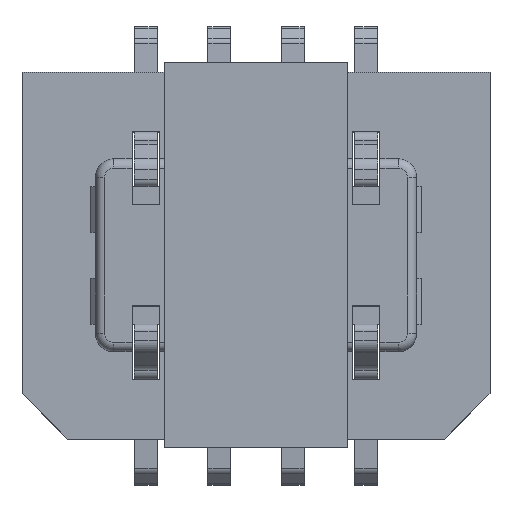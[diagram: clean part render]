
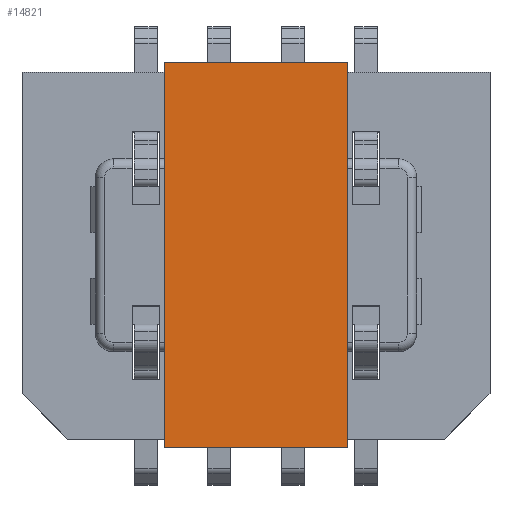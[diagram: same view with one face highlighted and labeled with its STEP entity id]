
A CAD part, top view. The second image highlights one B-rep face of the part: STEP entity #14821.
In plain terms, the highlighted planar face has unit normal (0, 0, 1).
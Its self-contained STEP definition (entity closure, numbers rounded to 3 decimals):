
#14769=CARTESIAN_POINT('Vertex',(-1.,2.1,4.95)) ;
#14772=CARTESIAN_POINT('Line Origine',(0.,2.1,4.95)) ;
#14776=CARTESIAN_POINT('Vertex',(1.,2.1,4.95)) ;
#14791=CARTESIAN_POINT('Axis2P3D Location',(0.,-2.1,4.95)) ;
#14796=CARTESIAN_POINT('Line Origine',(-1.,0.,4.95)) ;
#14800=CARTESIAN_POINT('Vertex',(-1.,-2.1,4.95)) ;
#14803=CARTESIAN_POINT('Line Origine',(0.,-2.1,4.95)) ;
#14807=CARTESIAN_POINT('Vertex',(1.,-2.1,4.95)) ;
#14810=CARTESIAN_POINT('Line Origine',(1.,0.,4.95)) ;
#14773=DIRECTION('Vector Direction',(1.,0.,0.)) ;
#14792=DIRECTION('Axis2P3D Direction',(0.,0.,-1.)) ;
#14793=DIRECTION('Axis2P3D XDirection',(0.,1.,0.)) ;
#14797=DIRECTION('Vector Direction',(0.,1.,0.)) ;
#14804=DIRECTION('Vector Direction',(1.,0.,0.)) ;
#14811=DIRECTION('Vector Direction',(0.,1.,0.)) ;
#14794=AXIS2_PLACEMENT_3D('Plane Axis2P3D',#14791,#14792,#14793) ;
#14816=ORIENTED_EDGE('',*,*,#14778,.F.) ;
#14817=ORIENTED_EDGE('',*,*,#14802,.T.) ;
#14818=ORIENTED_EDGE('',*,*,#14809,.T.) ;
#14819=ORIENTED_EDGE('',*,*,#14814,.F.) ;
#14774=VECTOR('Line Direction',#14773,1.) ;
#14798=VECTOR('Line Direction',#14797,1.) ;
#14805=VECTOR('Line Direction',#14804,1.) ;
#14812=VECTOR('Line Direction',#14811,1.) ;
#14821=ADVANCED_FACE('\X2\76D6\X0\',(#14820),#14795,.F.) ;
#14778=EDGE_CURVE('',#14770,#14777,#14775,.T.) ;
#14802=EDGE_CURVE('',#14770,#14801,#14799,.F.) ;
#14809=EDGE_CURVE('',#14801,#14808,#14806,.T.) ;
#14814=EDGE_CURVE('',#14777,#14808,#14813,.F.) ;
#14815=EDGE_LOOP('',(#14816,#14817,#14818,#14819)) ;
#14820=FACE_OUTER_BOUND('',#14815,.T.) ;
#14775=LINE('Line',#14772,#14774) ;
#14799=LINE('Line',#14796,#14798) ;
#14806=LINE('Line',#14803,#14805) ;
#14813=LINE('Line',#14810,#14812) ;
#14795=PLANE('Plane',#14794) ;
#14770=VERTEX_POINT('',#14769) ;
#14777=VERTEX_POINT('',#14776) ;
#14801=VERTEX_POINT('',#14800) ;
#14808=VERTEX_POINT('',#14807) ;
